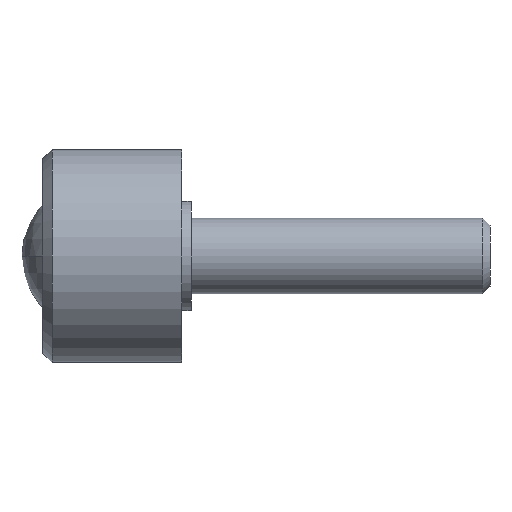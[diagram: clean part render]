
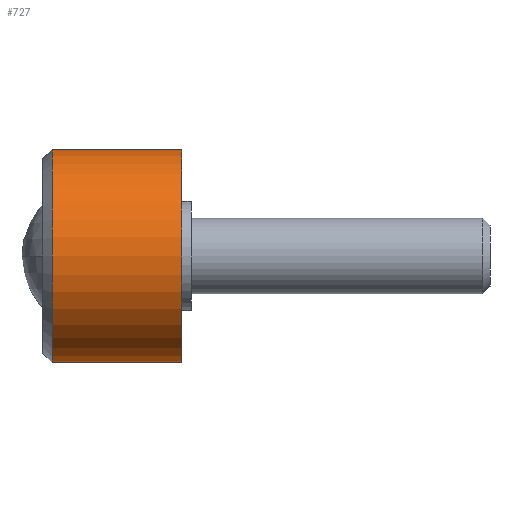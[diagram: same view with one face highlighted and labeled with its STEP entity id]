
A CAD part, left-side view. The second image highlights one B-rep face of the part: STEP entity #727.
In plain terms, the highlighted cylindrical face has radius 22.5 mm (diameter 45 mm), a partial arc.
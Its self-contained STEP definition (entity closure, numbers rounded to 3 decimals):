
#3 = LINE ( 'NONE', #481, #201 ) ;
#14 = ORIENTED_EDGE ( 'NONE', *, *, #65, .F. ) ;
#22 = CARTESIAN_POINT ( 'NONE',  ( 0., 27.3, 22.5 ) ) ;
#35 = VECTOR ( 'NONE', #591, 1000. ) ;
#47 = EDGE_LOOP ( 'NONE', ( #14, #192, #314, #689 ) ) ;
#56 = DIRECTION ( 'NONE',  ( 0., -1., 0. ) ) ;
#65 = EDGE_CURVE ( 'NONE', #683, #239, #204, .T. ) ;
#71 = AXIS2_PLACEMENT_3D ( 'NONE', #601, #56, #718 ) ;
#77 = DIRECTION ( 'NONE',  ( 0., 0., -1. ) ) ;
#86 = DIRECTION ( 'NONE',  ( 0., 0., -1. ) ) ;
#113 = CARTESIAN_POINT ( 'NONE',  ( 0., 27.3, -22.5 ) ) ;
#135 = DIRECTION ( 'NONE',  ( 0., -1., 0. ) ) ;
#181 = EDGE_CURVE ( 'NONE', #383, #572, #3, .T. ) ;
#192 = ORIENTED_EDGE ( 'NONE', *, *, #419, .T. ) ;
#201 = VECTOR ( 'NONE', #541, 1000. ) ;
#204 = LINE ( 'NONE', #468, #35 ) ;
#239 = VERTEX_POINT ( 'NONE', #497 ) ;
#246 = FACE_OUTER_BOUND ( 'NONE', #47, .T. ) ;
#314 = ORIENTED_EDGE ( 'NONE', *, *, #181, .T. ) ;
#376 = CARTESIAN_POINT ( 'NONE',  ( 0., 0., 0. ) ) ;
#383 = VERTEX_POINT ( 'NONE', #113 ) ;
#390 = DIRECTION ( 'NONE',  ( 0., -1., 0. ) ) ;
#418 = AXIS2_PLACEMENT_3D ( 'NONE', #376, #390, #77 ) ;
#419 = EDGE_CURVE ( 'NONE', #683, #383, #617, .T. ) ;
#441 = CARTESIAN_POINT ( 'NONE',  ( 0., 0., -22.5 ) ) ;
#468 = CARTESIAN_POINT ( 'NONE',  ( 0., 0., 22.5 ) ) ;
#481 = CARTESIAN_POINT ( 'NONE',  ( 0., 0., -22.5 ) ) ;
#497 = CARTESIAN_POINT ( 'NONE',  ( 0., 0., 22.5 ) ) ;
#540 = AXIS2_PLACEMENT_3D ( 'NONE', #567, #135, #86 ) ;
#541 = DIRECTION ( 'NONE',  ( 0., -1., 0. ) ) ;
#567 = CARTESIAN_POINT ( 'NONE',  ( 0., 0., 0. ) ) ;
#572 = VERTEX_POINT ( 'NONE', #441 ) ;
#591 = DIRECTION ( 'NONE',  ( 0., -1., 0. ) ) ;
#601 = CARTESIAN_POINT ( 'NONE',  ( 0., 27.3, 0. ) ) ;
#617 = CIRCLE ( 'NONE', #71, 22.5 ) ;
#626 = CYLINDRICAL_SURFACE ( 'NONE', #540, 22.5 ) ;
#646 = CIRCLE ( 'NONE', #418, 22.5 ) ;
#668 = EDGE_CURVE ( 'NONE', #239, #572, #646, .T. ) ;
#683 = VERTEX_POINT ( 'NONE', #22 ) ;
#689 = ORIENTED_EDGE ( 'NONE', *, *, #668, .F. ) ;
#718 = DIRECTION ( 'NONE',  ( 0., 0., 1. ) ) ;
#727 = ADVANCED_FACE ( 'NONE', ( #246 ), #626, .T. ) ;
